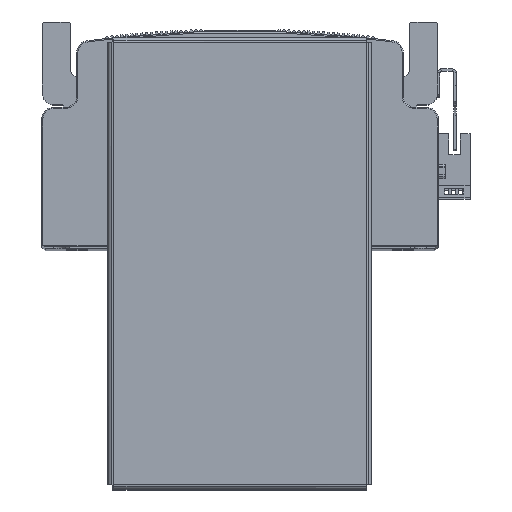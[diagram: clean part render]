
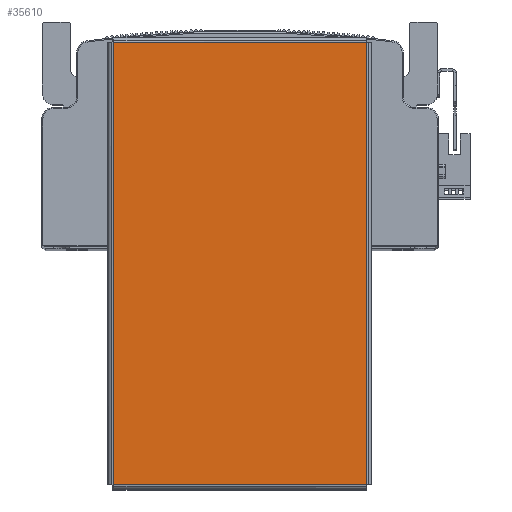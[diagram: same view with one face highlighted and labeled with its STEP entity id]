
A CAD part, top view. The second image highlights one B-rep face of the part: STEP entity #35610.
In plain terms, the highlighted planar face has unit normal (0, 0, 1) as drawn and (0, -1, 0) by its records, which use the part's own axes.
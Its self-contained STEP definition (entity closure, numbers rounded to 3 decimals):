
#8912 = FACE_OUTER_BOUND ( 'NONE', #38653, .T. ) ;
#16991 = AXIS2_PLACEMENT_3D ( 'NONE', #23895, #23882, #23877 ) ;
#20537 = LINE ( 'NONE', #22501, #20573 ) ;
#20573 = VECTOR ( 'NONE', #22498, 1000. ) ;
#20588 = LINE ( 'NONE', #22486, #20596 ) ;
#20596 = VECTOR ( 'NONE', #22500, 1000. ) ;
#22201 = CARTESIAN_POINT ( 'NONE',  ( 94.793, -1.5, 54.363 ) ) ;
#22202 = CARTESIAN_POINT ( 'NONE',  ( -94.793, -1.5, -54.363 ) ) ;
#22207 = DIRECTION ( 'NONE',  ( -1., 0., 0. ) ) ;
#22235 = DIRECTION ( 'NONE',  ( 1., 0., 0. ) ) ;
#22486 = CARTESIAN_POINT ( 'NONE',  ( 94.763, -1.5, -54.393 ) ) ;
#22498 = DIRECTION ( 'NONE',  ( 0., 0., -1. ) ) ;
#22500 = DIRECTION ( 'NONE',  ( 0., 0., 1. ) ) ;
#22501 = CARTESIAN_POINT ( 'NONE',  ( -94.763, -1.5, 54.393 ) ) ;
#23877 = DIRECTION ( 'NONE',  ( 0., 0., 1. ) ) ;
#23882 = DIRECTION ( 'NONE',  ( 0., 1., 0. ) ) ;
#23894 = PLANE ( 'NONE',  #16991 ) ;
#23895 = CARTESIAN_POINT ( 'NONE',  ( 0., -1.5, 0. ) ) ;
#25922 = VECTOR ( 'NONE', #22235, 1000. ) ;
#25928 = LINE ( 'NONE', #22201, #25935 ) ;
#25935 = VECTOR ( 'NONE', #22207, 1000. ) ;
#25947 = LINE ( 'NONE', #22202, #25922 ) ;
#27268 = EDGE_CURVE ( 'NONE', #42104, #42002, #25947, .T. ) ;
#27281 = EDGE_CURVE ( 'NONE', #42009, #42097, #25928, .T. ) ;
#27359 = EDGE_CURVE ( 'NONE', #42097, #42104, #20537, .T. ) ;
#27363 = EDGE_CURVE ( 'NONE', #42002, #42009, #20588, .T. ) ;
#35610 = ADVANCED_FACE ( 'NONE', ( #8912 ), #23894, .F. ) ;
#38653 = EDGE_LOOP ( 'NONE', ( #49258, #49243, #49266, #49269 ) ) ;
#42002 = VERTEX_POINT ( 'NONE', #62051 ) ;
#42009 = VERTEX_POINT ( 'NONE', #62046 ) ;
#42097 = VERTEX_POINT ( 'NONE', #62071 ) ;
#42104 = VERTEX_POINT ( 'NONE', #62112 ) ;
#49243 = ORIENTED_EDGE ( 'NONE', *, *, #27359, .T. ) ;
#49258 = ORIENTED_EDGE ( 'NONE', *, *, #27281, .T. ) ;
#49266 = ORIENTED_EDGE ( 'NONE', *, *, #27268, .T. ) ;
#49269 = ORIENTED_EDGE ( 'NONE', *, *, #27363, .T. ) ;
#62046 = CARTESIAN_POINT ( 'NONE',  ( 94.763, -1.5, 54.363 ) ) ;
#62051 = CARTESIAN_POINT ( 'NONE',  ( 94.763, -1.5, -54.363 ) ) ;
#62071 = CARTESIAN_POINT ( 'NONE',  ( -94.763, -1.5, 54.363 ) ) ;
#62112 = CARTESIAN_POINT ( 'NONE',  ( -94.763, -1.5, -54.363 ) ) ;
